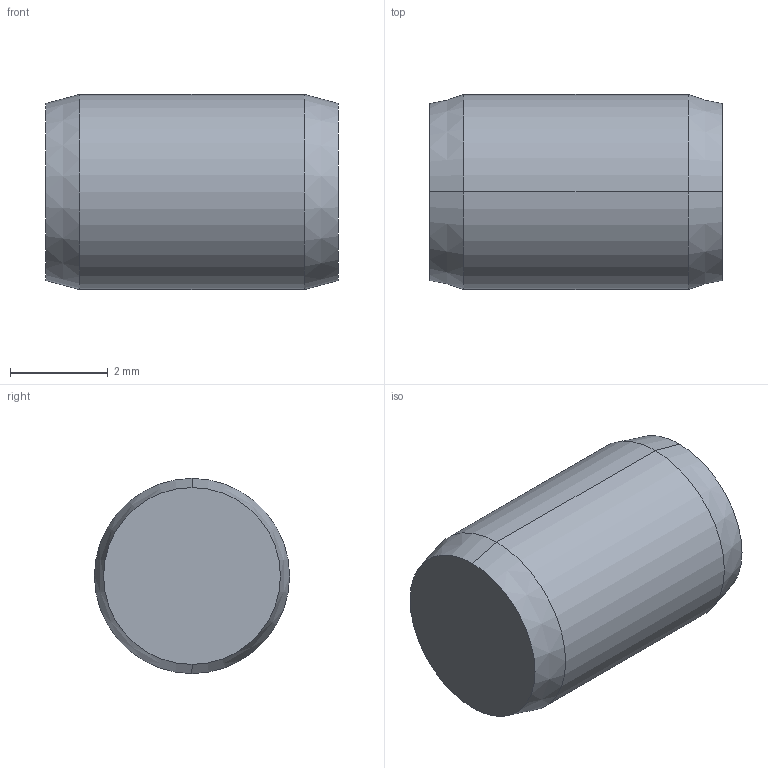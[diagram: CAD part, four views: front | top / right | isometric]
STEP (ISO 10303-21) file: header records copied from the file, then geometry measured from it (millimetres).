
FILE_DESCRIPTION (( 'STEP AP203' ), '1' );
FILE_NAME ('P1206.040-006.step', '2017-06-14T08:08:24', ( 'User' ), ( '' ), 'SwSTEP 2.0', 'SolidWorks 2009', '' );
FILE_SCHEMA (( 'CONFIG_CONTROL_DESIGN' ));
Length unit declared in the file: millimetre
Products named in the file (1): P1206.040-006
Bounding box: 6 x 4 x 4 mm (x, y, z)
Volume: 73.8 mm3; surface area: 95.8 mm2
Topology: 1 solids, 1 shells, 8 faces, 14 edges, 8 vertices
Faces by surface type: cone 4, cylinder 2, plane 2
Entity records: 271 total; most frequent: DIRECTION 40, CARTESIAN_POINT 31, ORIENTED_EDGE 28, AXIS2_PLACEMENT_3D 17, EDGE_CURVE 14, PERSON_AND_ORGANIZATION 8, FACE_OUTER_BOUND 8, CIRCLE 8
